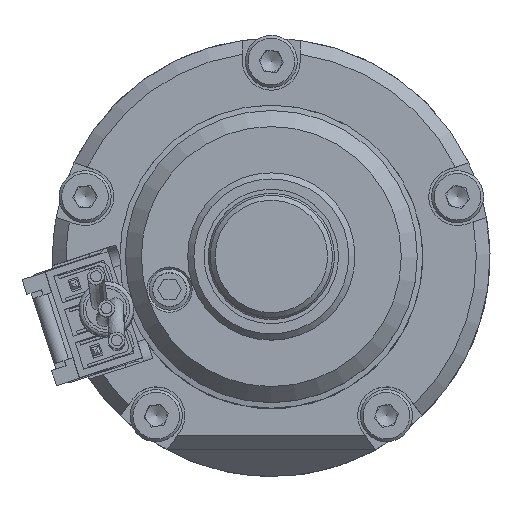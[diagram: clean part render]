
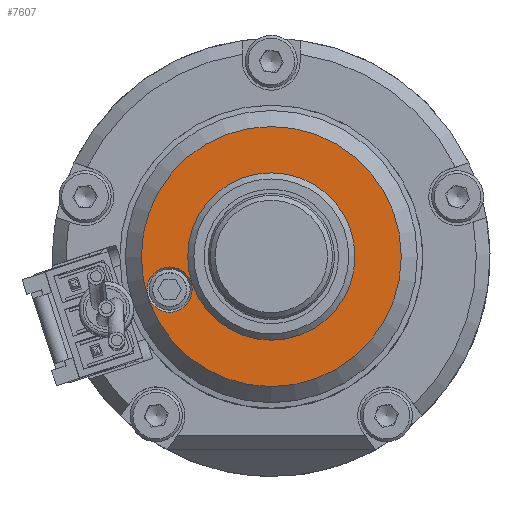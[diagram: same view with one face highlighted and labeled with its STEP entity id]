
A CAD part, top view. The second image highlights one B-rep face of the part: STEP entity #7607.
In plain terms, the highlighted planar face has unit normal (0, 0, 1) as drawn and (0, 0, -1) by its records, which use the part's own axes.
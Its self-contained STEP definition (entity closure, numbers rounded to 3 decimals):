
#1217 = VERTEX_POINT ( 'NONE', #11987 ) ;
#1408 = VERTEX_POINT ( 'NONE', #15804 ) ;
#2766 = CARTESIAN_POINT ( 'NONE',  ( 0., 0., -1.17 ) ) ;
#3067 = EDGE_CURVE ( 'NONE', #8716, #8716, #7445, .T. ) ;
#3562 = DIRECTION ( 'NONE',  ( 0., 0., -1. ) ) ;
#3963 = AXIS2_PLACEMENT_3D ( 'NONE', #3998, #14244, #7905 ) ;
#3998 = CARTESIAN_POINT ( 'NONE',  ( 0., 0., -1.17 ) ) ;
#4045 = DIRECTION ( 'NONE',  ( 0., 0., 1. ) ) ;
#4379 = EDGE_LOOP ( 'NONE', ( #13975 ) ) ;
#5446 = EDGE_LOOP ( 'NONE', ( #7780 ) ) ;
#5854 = CARTESIAN_POINT ( 'NONE',  ( 7.418, -2.41, -1.17 ) ) ;
#6189 = FACE_BOUND ( 'NONE', #6194, .T. ) ;
#6194 = EDGE_LOOP ( 'NONE', ( #12840 ) ) ;
#6552 = AXIS2_PLACEMENT_3D ( 'NONE', #2766, #4045, #9157 ) ;
#7422 = CARTESIAN_POINT ( 'NONE',  ( 0., 12.184, -1.17 ) ) ;
#7445 = CIRCLE ( 'NONE', #9966, 1.65 ) ;
#7607 = ADVANCED_FACE ( 'NONE', ( #8631, #10464, #6189 ), #11158, .T. ) ;
#7780 = ORIENTED_EDGE ( 'NONE', *, *, #3067, .F. ) ;
#7905 = DIRECTION ( 'NONE',  ( -1., 0., 0. ) ) ;
#8631 = FACE_BOUND ( 'NONE', #5446, .T. ) ;
#8716 = VERTEX_POINT ( 'NONE', #14178 ) ;
#8804 = CIRCLE ( 'NONE', #6552, 6.1 ) ;
#9157 = DIRECTION ( 'NONE',  ( 1., 0., 0. ) ) ;
#9396 = CIRCLE ( 'NONE', #3963, 9.48 ) ;
#9966 = AXIS2_PLACEMENT_3D ( 'NONE', #5854, #3562, #15121 ) ;
#10464 = FACE_OUTER_BOUND ( 'NONE', #4379, .T. ) ;
#11158 = PLANE ( 'NONE',  #13323 ) ;
#11987 = CARTESIAN_POINT ( 'NONE',  ( -9.48, 0., -1.17 ) ) ;
#12840 = ORIENTED_EDGE ( 'NONE', *, *, #15294, .T. ) ;
#13323 = AXIS2_PLACEMENT_3D ( 'NONE', #7422, #16363, #13668 ) ;
#13668 = DIRECTION ( 'NONE',  ( -1., 0., 0. ) ) ;
#13975 = ORIENTED_EDGE ( 'NONE', *, *, #15369, .F. ) ;
#14178 = CARTESIAN_POINT ( 'NONE',  ( 5.768, -2.41, -1.17 ) ) ;
#14244 = DIRECTION ( 'NONE',  ( 0., 0., 1. ) ) ;
#15121 = DIRECTION ( 'NONE',  ( -1., 0., 0. ) ) ;
#15294 = EDGE_CURVE ( 'NONE', #1408, #1408, #8804, .T. ) ;
#15369 = EDGE_CURVE ( 'NONE', #1217, #1217, #9396, .T. ) ;
#15804 = CARTESIAN_POINT ( 'NONE',  ( 6.1, 0., -1.17 ) ) ;
#16363 = DIRECTION ( 'NONE',  ( 0., 0., -1. ) ) ;
